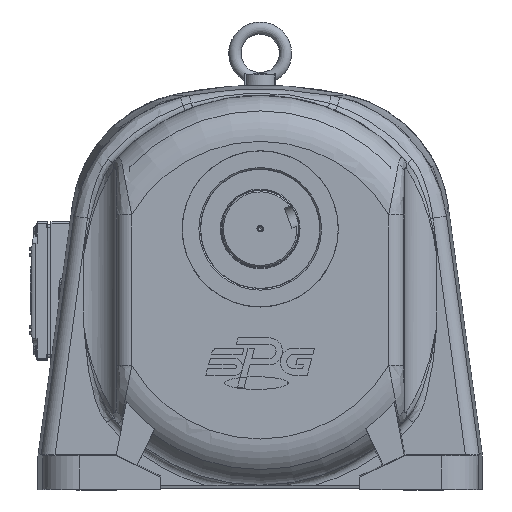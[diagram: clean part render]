
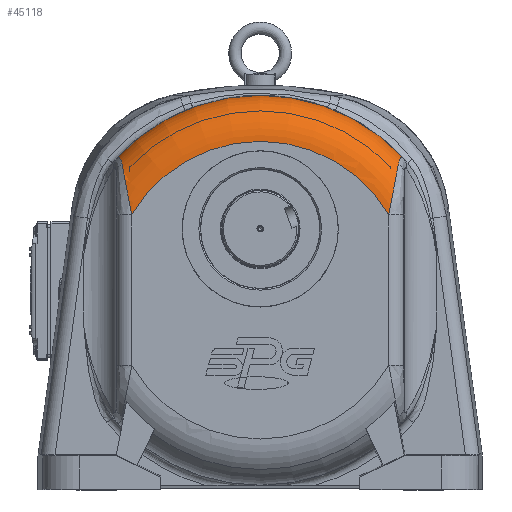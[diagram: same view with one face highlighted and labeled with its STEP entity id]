
A CAD part, top view. The second image highlights one B-rep face of the part: STEP entity #45118.
In plain terms, the highlighted toroidal (fillet/blend) face has major radius 97.099 mm and minor radius 30 mm.
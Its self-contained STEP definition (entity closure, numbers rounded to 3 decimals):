
#1495=TOROIDAL_SURFACE('',#48782,97.099,30.);
#8264=FACE_OUTER_BOUND('',#11059,.T.);
#11059=EDGE_LOOP('',(#32514,#32515,#32516,#32517,#32518,#32519));
#13923=CIRCLE('',#48713,97.099);
#13973=CIRCLE('',#48783,127.093);
#15861=B_SPLINE_CURVE_WITH_KNOTS('',3,(#71285,#71286,#71287,#71288,#71289,
#71290),.UNSPECIFIED.,.F.,.F.,(4,1,1,4),(-1.203,-0.859,
-0.515,0.),.UNSPECIFIED.);
#15863=B_SPLINE_CURVE_WITH_KNOTS('',3,(#71378,#71379,#71380,#71381,#71382,
#71383,#71384),.UNSPECIFIED.,.F.,.F.,(4,1,1,1,4),(-2.952,-2.53,
-2.109,-1.265,0.),.UNSPECIFIED.);
#15873=B_SPLINE_CURVE_WITH_KNOTS('',3,(#71875,#71876,#71877,#71878,#71879,
#71880,#71881,#71882),.UNSPECIFIED.,.F.,.F.,(4,1,1,1,1,4),(-2.954,
-2.11,-1.266,-0.844,-0.422,
0.),.UNSPECIFIED.);
#15874=B_SPLINE_CURVE_WITH_KNOTS('',3,(#71920,#71921,#71922,#71923,#71924,
#71925,#71926),.UNSPECIFIED.,.F.,.F.,(4,1,1,1,4),(-1.203,-0.859,
-0.516,-0.344,0.),.UNSPECIFIED.);
#18772=VERTEX_POINT('',#70641);
#18774=VERTEX_POINT('',#70645);
#18835=VERTEX_POINT('',#71282);
#18836=VERTEX_POINT('',#71284);
#18846=VERTEX_POINT('',#71874);
#18847=VERTEX_POINT('',#71919);
#23666=EDGE_CURVE('',#18772,#18774,#13923,.T.);
#23732=EDGE_CURVE('',#18835,#18836,#15861,.T.);
#23736=EDGE_CURVE('',#18836,#18774,#15863,.T.);
#23754=EDGE_CURVE('',#18772,#18846,#15873,.T.);
#23756=EDGE_CURVE('',#18846,#18847,#15874,.T.);
#23805=EDGE_CURVE('',#18835,#18847,#13973,.T.);
#32514=ORIENTED_EDGE('',*,*,#23805,.T.);
#32515=ORIENTED_EDGE('',*,*,#23756,.F.);
#32516=ORIENTED_EDGE('',*,*,#23754,.F.);
#32517=ORIENTED_EDGE('',*,*,#23666,.T.);
#32518=ORIENTED_EDGE('',*,*,#23736,.F.);
#32519=ORIENTED_EDGE('',*,*,#23732,.F.);
#45118=ADVANCED_FACE('',(#8264),#1495,.T.);
#48713=AXIS2_PLACEMENT_3D('',#70647,#56360,#56361);
#48782=AXIS2_PLACEMENT_3D('',#73009,#56544,#56545);
#48783=AXIS2_PLACEMENT_3D('',#73010,#56546,#56547);
#56360=DIRECTION('center_axis',(0.,0.,-1.));
#56361=DIRECTION('ref_axis',(-0.521,0.854,0.));
#56544=DIRECTION('center_axis',(0.,0.,-1.));
#56545=DIRECTION('ref_axis',(-1.,0.,0.));
#56546=DIRECTION('center_axis',(0.,0.,1.));
#56547=DIRECTION('ref_axis',(-0.521,0.854,0.));
#70641=CARTESIAN_POINT('',(-131.958,49.674,60.));
#70645=CARTESIAN_POINT('',(35.602,49.674,60.));
#70647=CARTESIAN_POINT('Origin',(-48.178,0.592,60.));
#71282=CARTESIAN_POINT('',(45.438,86.55,30.605));
#71284=CARTESIAN_POINT('',(41.959,82.756,46.783));
#71285=CARTESIAN_POINT('Ctrl Pts',(45.438,86.55,30.605));
#71286=CARTESIAN_POINT('Ctrl Pts',(44.997,86.985,32.094));
#71287=CARTESIAN_POINT('Ctrl Pts',(44.13,87.491,35.314));
#71288=CARTESIAN_POINT('Ctrl Pts',(42.853,86.488,41.285));
#71289=CARTESIAN_POINT('Ctrl Pts',(42.255,84.281,44.936));
#71290=CARTESIAN_POINT('Ctrl Pts',(41.959,82.756,46.783));
#71378=CARTESIAN_POINT('Ctrl Pts',(41.959,82.756,46.783));
#71379=CARTESIAN_POINT('Ctrl Pts',(41.716,81.509,48.294));
#71380=CARTESIAN_POINT('Ctrl Pts',(41.186,78.745,51.016));
#71381=CARTESIAN_POINT('Ctrl Pts',(40.023,72.616,55.228));
#71382=CARTESIAN_POINT('Ctrl Pts',(38.143,62.752,59.151));
#71383=CARTESIAN_POINT('Ctrl Pts',(36.522,54.431,60.));
#71384=CARTESIAN_POINT('Ctrl Pts',(35.602,49.674,60.));
#71874=CARTESIAN_POINT('',(-138.314,82.756,46.783));
#71875=CARTESIAN_POINT('Ctrl Pts',(-131.958,49.674,60.));
#71876=CARTESIAN_POINT('Ctrl Pts',(-132.571,52.847,60.));
#71877=CARTESIAN_POINT('Ctrl Pts',(-133.835,59.342,59.551));
#71878=CARTESIAN_POINT('Ctrl Pts',(-135.437,67.668,57.336));
#71879=CARTESIAN_POINT('Ctrl Pts',(-136.665,74.126,54.193));
#71880=CARTESIAN_POINT('Ctrl Pts',(-137.539,78.733,51.023));
#71881=CARTESIAN_POINT('Ctrl Pts',(-138.071,81.508,48.295));
#71882=CARTESIAN_POINT('Ctrl Pts',(-138.314,82.756,46.783));
#71919=CARTESIAN_POINT('',(-141.793,86.55,30.605));
#71920=CARTESIAN_POINT('Ctrl Pts',(-138.314,82.756,46.783));
#71921=CARTESIAN_POINT('Ctrl Pts',(-138.512,83.773,45.551));
#71922=CARTESIAN_POINT('Ctrl Pts',(-138.956,85.613,42.827));
#71923=CARTESIAN_POINT('Ctrl Pts',(-139.741,86.988,38.74));
#71924=CARTESIAN_POINT('Ctrl Pts',(-140.695,87.358,34.544));
#71925=CARTESIAN_POINT('Ctrl Pts',(-141.352,86.985,32.095));
#71926=CARTESIAN_POINT('Ctrl Pts',(-141.793,86.55,30.605));
#73009=CARTESIAN_POINT('Origin',(-48.178,0.592,30.));
#73010=CARTESIAN_POINT('Origin',(-48.178,0.592,30.605));
